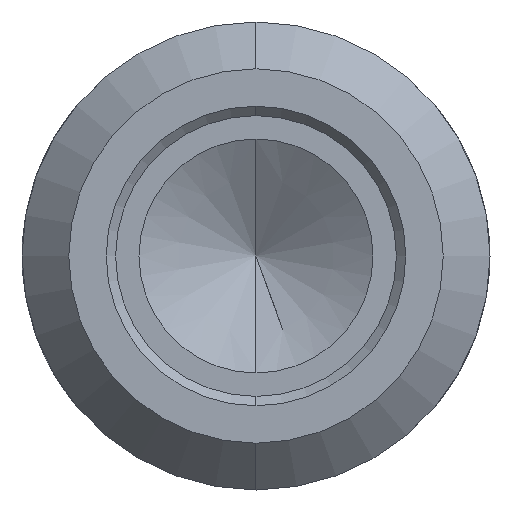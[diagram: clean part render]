
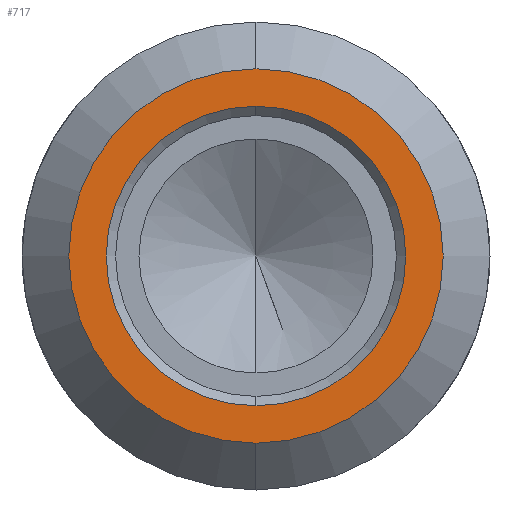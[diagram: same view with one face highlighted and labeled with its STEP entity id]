
A CAD part, left-side view. The second image highlights one B-rep face of the part: STEP entity #717.
In plain terms, the highlighted planar face has unit normal (-1, 0, 0).
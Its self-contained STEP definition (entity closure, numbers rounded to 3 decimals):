
#15 = FACE_BOUND ( 'NONE', #1220, .T. ) ;
#43 = CIRCLE ( 'NONE', #232, 3.2 ) ;
#56 = CARTESIAN_POINT ( 'NONE',  ( 0., 0., 0. ) ) ;
#79 = DIRECTION ( 'NONE',  ( -1., 0., 0. ) ) ;
#96 = VERTEX_POINT ( 'NONE', #580 ) ;
#123 = VERTEX_POINT ( 'NONE', #660 ) ;
#133 = PLANE ( 'NONE',  #867 ) ;
#151 = EDGE_CURVE ( 'NONE', #1294, #96, #870, .T. ) ;
#232 = AXIS2_PLACEMENT_3D ( 'NONE', #293, #306, #696 ) ;
#257 = CARTESIAN_POINT ( 'NONE',  ( 0., 0., -4. ) ) ;
#265 = DIRECTION ( 'NONE',  ( 0., 0., -1. ) ) ;
#288 = EDGE_LOOP ( 'NONE', ( #1048, #514 ) ) ;
#293 = CARTESIAN_POINT ( 'NONE',  ( 0., 0., 0. ) ) ;
#306 = DIRECTION ( 'NONE',  ( 1., 0., 0. ) ) ;
#333 = EDGE_CURVE ( 'NONE', #873, #123, #1094, .T. ) ;
#373 = EDGE_CURVE ( 'NONE', #123, #873, #527, .T. ) ;
#386 = CARTESIAN_POINT ( 'NONE',  ( 0., 0., 0. ) ) ;
#404 = AXIS2_PLACEMENT_3D ( 'NONE', #386, #79, #681 ) ;
#473 = ORIENTED_EDGE ( 'NONE', *, *, #151, .T. ) ;
#509 = EDGE_CURVE ( 'NONE', #96, #1294, #43, .T. ) ;
#514 = ORIENTED_EDGE ( 'NONE', *, *, #373, .T. ) ;
#527 = CIRCLE ( 'NONE', #404, 4. ) ;
#544 = DIRECTION ( 'NONE',  ( 1., 0., 0. ) ) ;
#580 = CARTESIAN_POINT ( 'NONE',  ( 0., 0., 3.2 ) ) ;
#638 = CARTESIAN_POINT ( 'NONE',  ( 0., 0., 0. ) ) ;
#660 = CARTESIAN_POINT ( 'NONE',  ( 0., 0., 4. ) ) ;
#681 = DIRECTION ( 'NONE',  ( 0., 0., -1. ) ) ;
#696 = DIRECTION ( 'NONE',  ( 0., 0., -1. ) ) ;
#713 = AXIS2_PLACEMENT_3D ( 'NONE', #56, #1271, #265 ) ;
#717 = ADVANCED_FACE ( 'NONE', ( #15, #760 ), #133, .F. ) ;
#760 = FACE_OUTER_BOUND ( 'NONE', #288, .T. ) ;
#849 = DIRECTION ( 'NONE',  ( 1., 0., 0. ) ) ;
#867 = AXIS2_PLACEMENT_3D ( 'NONE', #1260, #544, #945 ) ;
#870 = CIRCLE ( 'NONE', #1138, 3.2 ) ;
#873 = VERTEX_POINT ( 'NONE', #257 ) ;
#945 = DIRECTION ( 'NONE',  ( 0., 0., -1. ) ) ;
#1018 = ORIENTED_EDGE ( 'NONE', *, *, #509, .T. ) ;
#1048 = ORIENTED_EDGE ( 'NONE', *, *, #333, .T. ) ;
#1094 = CIRCLE ( 'NONE', #713, 4. ) ;
#1138 = AXIS2_PLACEMENT_3D ( 'NONE', #638, #849, #1252 ) ;
#1220 = EDGE_LOOP ( 'NONE', ( #1018, #473 ) ) ;
#1252 = DIRECTION ( 'NONE',  ( 0., 0., -1. ) ) ;
#1253 = CARTESIAN_POINT ( 'NONE',  ( 0., 0., -3.2 ) ) ;
#1260 = CARTESIAN_POINT ( 'NONE',  ( 0., 5., 0. ) ) ;
#1271 = DIRECTION ( 'NONE',  ( -1., 0., 0. ) ) ;
#1294 = VERTEX_POINT ( 'NONE', #1253 ) ;
